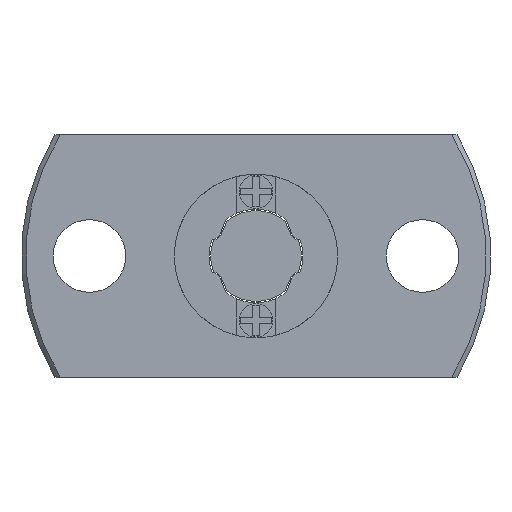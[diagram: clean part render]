
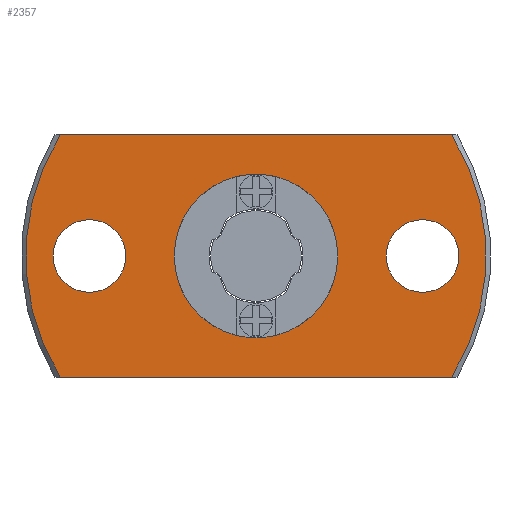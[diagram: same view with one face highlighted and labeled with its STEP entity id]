
A CAD part, left-side view. The second image highlights one B-rep face of the part: STEP entity #2357.
In plain terms, the highlighted planar face has unit normal (-1, 0, 0).
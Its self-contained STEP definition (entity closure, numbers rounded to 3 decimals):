
#53=PLANE('',#2586);
#189=LINE('',#3706,#425);
#190=LINE('',#3707,#426);
#425=VECTOR('',#2985,1000.);
#426=VECTOR('',#2986,1000.);
#804=ORIENTED_EDGE('',*,*,#1420,.F.);
#805=ORIENTED_EDGE('',*,*,#1421,.T.);
#806=ORIENTED_EDGE('',*,*,#1351,.F.);
#807=ORIENTED_EDGE('',*,*,#1422,.T.);
#808=ORIENTED_EDGE('',*,*,#1423,.F.);
#809=ORIENTED_EDGE('',*,*,#1424,.F.);
#810=ORIENTED_EDGE('',*,*,#1383,.T.);
#1351=EDGE_CURVE('',#1674,#1675,#1900,.T.);
#1383=EDGE_CURVE('',#1704,#1704,#1919,.T.);
#1420=EDGE_CURVE('',#1733,#1734,#1936,.T.);
#1421=EDGE_CURVE('',#1733,#1675,#189,.T.);
#1422=EDGE_CURVE('',#1674,#1734,#190,.T.);
#1423=EDGE_CURVE('',#1735,#1735,#1937,.F.);
#1424=EDGE_CURVE('',#1736,#1736,#1938,.F.);
#1674=VERTEX_POINT('',#3557);
#1675=VERTEX_POINT('',#3559);
#1704=VERTEX_POINT('',#3634);
#1733=VERTEX_POINT('',#3704);
#1734=VERTEX_POINT('',#3705);
#1735=VERTEX_POINT('',#3709);
#1736=VERTEX_POINT('',#3711);
#1900=CIRCLE('',#2542,7.6);
#1919=CIRCLE('',#2566,2.7);
#1936=CIRCLE('',#2587,7.6);
#1937=CIRCLE('',#2588,1.2);
#1938=CIRCLE('',#2589,1.2);
#1998=EDGE_LOOP('',(#804,#805,#806,#807));
#1999=EDGE_LOOP('',(#808));
#2000=EDGE_LOOP('',(#809));
#2001=EDGE_LOOP('',(#810));
#2158=FACE_BOUND('',#1998,.T.);
#2159=FACE_BOUND('',#1999,.T.);
#2160=FACE_BOUND('',#2000,.T.);
#2161=FACE_BOUND('',#2001,.T.);
#2357=ADVANCED_FACE('',(#2158,#2159,#2160,#2161),#53,.F.);
#2542=AXIS2_PLACEMENT_3D('',#3558,#2863,#2864);
#2566=AXIS2_PLACEMENT_3D('',#3633,#2921,#2922);
#2586=AXIS2_PLACEMENT_3D('',#3702,#2981,#2982);
#2587=AXIS2_PLACEMENT_3D('',#3703,#2983,#2984);
#2588=AXIS2_PLACEMENT_3D('',#3708,#2987,#2988);
#2589=AXIS2_PLACEMENT_3D('',#3710,#2989,#2990);
#2863=DIRECTION('',(1.,0.,0.));
#2864=DIRECTION('',(0.,0.,-1.));
#2921=DIRECTION('',(1.,0.,0.));
#2922=DIRECTION('',(0.,0.,-1.));
#2981=DIRECTION('',(1.,0.,0.));
#2982=DIRECTION('',(0.,0.,-1.));
#2983=DIRECTION('',(1.,0.,0.));
#2984=DIRECTION('',(0.,0.,-1.));
#2985=DIRECTION('',(0.,-1.,0.));
#2986=DIRECTION('',(0.,1.,0.));
#2987=DIRECTION('',(1.,0.,0.));
#2988=DIRECTION('',(0.,0.,-1.));
#2989=DIRECTION('',(1.,0.,0.));
#2990=DIRECTION('',(0.,0.,-1.));
#3557=CARTESIAN_POINT('',(-3.25,-6.462,4.));
#3558=CARTESIAN_POINT('',(-3.25,0.,0.));
#3559=CARTESIAN_POINT('',(-3.25,-6.462,-4.));
#3633=CARTESIAN_POINT('',(-3.25,0.,0.));
#3634=CARTESIAN_POINT('',(-3.25,0.,-2.7));
#3702=CARTESIAN_POINT('',(-3.25,2.7,0.));
#3703=CARTESIAN_POINT('',(-3.25,0.,0.));
#3704=CARTESIAN_POINT('',(-3.25,6.462,-4.));
#3705=CARTESIAN_POINT('',(-3.25,6.462,4.));
#3706=CARTESIAN_POINT('',(-3.25,2.7,-4.));
#3707=CARTESIAN_POINT('',(-3.25,2.7,4.));
#3708=CARTESIAN_POINT('',(-3.25,5.5,0.));
#3709=CARTESIAN_POINT('',(-3.25,5.5,-1.2));
#3710=CARTESIAN_POINT('',(-3.25,-5.5,0.));
#3711=CARTESIAN_POINT('',(-3.25,-5.5,-1.2));
